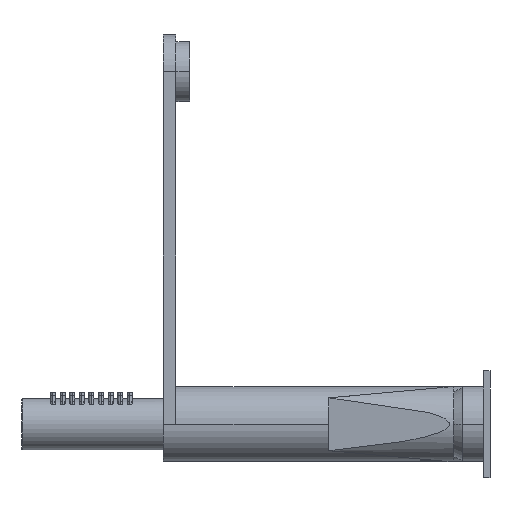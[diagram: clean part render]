
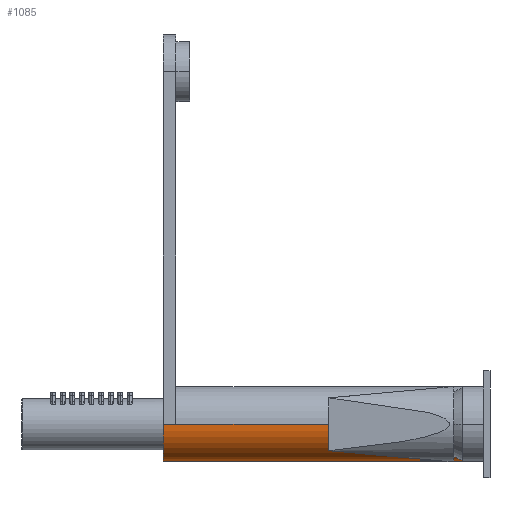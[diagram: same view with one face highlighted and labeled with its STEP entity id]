
A CAD part, left-side view. The second image highlights one B-rep face of the part: STEP entity #1085.
In plain terms, the highlighted cylindrical face has radius 17.5 mm (diameter 35 mm), a partial arc.
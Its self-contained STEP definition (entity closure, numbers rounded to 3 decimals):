
#869=DIRECTION('',(0.,-1.,0.));
#870=VECTOR('',#869,144.);
#871=CARTESIAN_POINT('',(132.5,147.,0.));
#872=LINE('',#871,#870);
#873=DIRECTION('',(0.,-1.,0.));
#874=VECTOR('',#873,144.);
#875=CARTESIAN_POINT('',(167.5,147.,0.));
#876=LINE('',#875,#874);
#881=DIRECTION('',(0.,-1.,0.));
#882=VECTOR('',#881,6.);
#883=CARTESIAN_POINT('',(167.5,153.,0.));
#884=LINE('',#883,#882);
#889=DIRECTION('',(0.,1.,0.));
#890=VECTOR('',#889,6.);
#891=CARTESIAN_POINT('',(132.5,147.,0.));
#892=LINE('',#891,#890);
#893=CARTESIAN_POINT('',(150.,153.,0.));
#894=DIRECTION('',(0.,1.,0.));
#895=DIRECTION('',(1.,0.,0.));
#896=AXIS2_PLACEMENT_3D('',#893,#894,#895);
#932=CARTESIAN_POINT('',(150.,3.,0.));
#933=DIRECTION('',(0.,-1.,0.));
#934=DIRECTION('',(-1.,0.,0.));
#935=AXIS2_PLACEMENT_3D('',#932,#933,#934);
#1003=CARTESIAN_POINT('',(167.5,3.,0.));
#1004=CARTESIAN_POINT('',(132.5,3.,0.));
#1005=VERTEX_POINT('',#1003);
#1006=VERTEX_POINT('',#1004);
#1011=CARTESIAN_POINT('',(167.5,147.,0.));
#1012=CARTESIAN_POINT('',(132.5,147.,0.));
#1013=VERTEX_POINT('',#1011);
#1014=VERTEX_POINT('',#1012);
#1015=CARTESIAN_POINT('',(167.5,153.,0.));
#1016=CARTESIAN_POINT('',(132.5,153.,0.));
#1017=VERTEX_POINT('',#1015);
#1018=VERTEX_POINT('',#1016);
#1068=CARTESIAN_POINT('',(150.,154.2,0.));
#1069=DIRECTION('',(0.,-1.,0.));
#1070=DIRECTION('',(1.,0.,0.));
#1071=AXIS2_PLACEMENT_3D('',#1068,#1069,#1070);
#1072=CYLINDRICAL_SURFACE('',#1071,17.5);
#1074=ORIENTED_EDGE('',*,*,#1073,.F.);
#1076=ORIENTED_EDGE('',*,*,#1075,.T.);
#1078=ORIENTED_EDGE('',*,*,#1077,.F.);
#1079=ORIENTED_EDGE('',*,*,#1063,.T.);
#1081=ORIENTED_EDGE('',*,*,#1080,.T.);
#1082=ORIENTED_EDGE('',*,*,#1059,.F.);
#1083=EDGE_LOOP('',(#1074,#1076,#1078,#1079,#1081,#1082));
#1084=FACE_OUTER_BOUND('',#1083,.F.);
#1085=ADVANCED_FACE('',(#1084),#1072,.T.);
#897=CIRCLE('',#896,17.5);
#936=CIRCLE('',#935,17.5);
#1059=EDGE_CURVE('',#1013,#1005,#876,.T.);
#1063=EDGE_CURVE('',#1014,#1006,#872,.T.);
#1073=EDGE_CURVE('',#1017,#1013,#884,.T.);
#1075=EDGE_CURVE('',#1017,#1018,#897,.T.);
#1077=EDGE_CURVE('',#1014,#1018,#892,.T.);
#1080=EDGE_CURVE('',#1006,#1005,#936,.T.);
